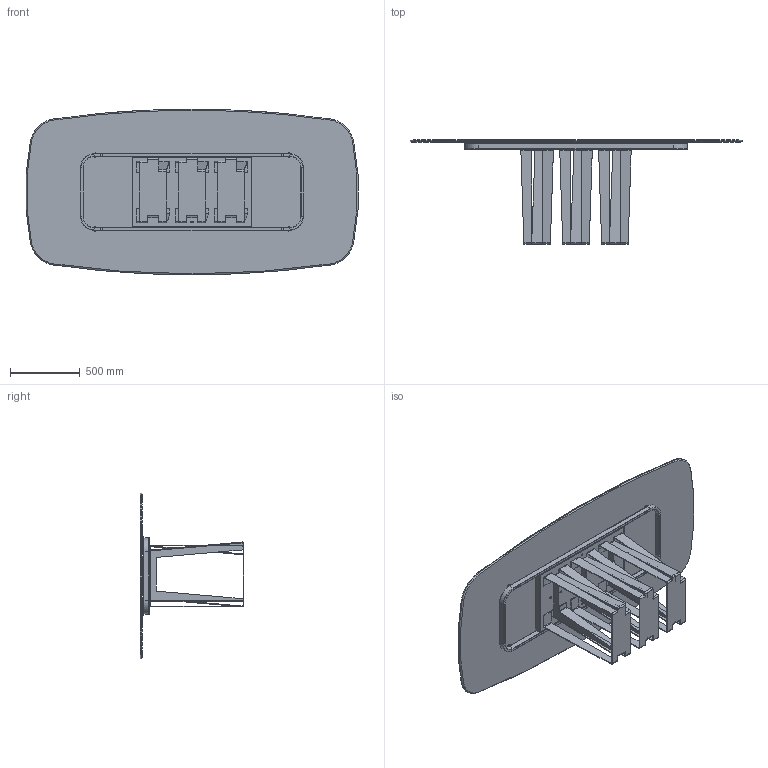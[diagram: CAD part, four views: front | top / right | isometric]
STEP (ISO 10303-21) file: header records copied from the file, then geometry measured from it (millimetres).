
FILE_DESCRIPTION (( 'STEP AP203' ), '1' );
FILE_NAME ('NA42C.STEP', '2024-08-07T14:43:11', ( '' ), ( '' ), 'SwSTEP 2.0', 'SolidWorks 2022', '' );
FILE_SCHEMA (( 'CONFIG_CONTROL_DESIGN' ));
Length unit declared in the file: millimetre
Products named in the file (8): M8xXXmm_M8x20mm; TTAV01_02-01-VASSOIO IRRIGIDIMENTO TELAIO UNIVERSALE; TTAV01_01-01-TELAIO UNIVERSALE X TAVOLI 180 240cm_Default<A macchina>; K4XCMXX-00-Piani Sagomati in ceramica_2390 x 1190; TTAV01-01-TELAIO UNIVERSALE X TAVOLI 180 240cm; 434070-00-PIEDINO TPV GOMMA NERO D. 30x8max18; NAB000000-00-NARCISO BASE SING. GREZZA; NA42C
Assembly tree (17 placements, depth 3):
  NA42C
    K4XCMXX-00-Piani Sagomati in ceramica_2390 x 1190
    434070-00-PIEDINO TPV GOMMA NERO D. 30x8max18  x4
    TTAV01-01-TELAIO UNIVERSALE X TAVOLI 180 240cm
      TTAV01_01-01-TELAIO UNIVERSALE X TAVOLI 180 240cm_Default<A macchina>
      TTAV01_02-01-VASSOIO IRRIGIDIMENTO TELAIO UNIVERSALE
    NAB000000-00-NARCISO BASE SING. GREZZA  x3
    M8xXXmm_M8x20mm  x6
Bounding box: 2382.15 x 746 x 1190 mm (x, y, z)
Volume: 53349798.1 mm3; surface area: 15471295.1 mm2
Topology: 31 solids, 31 shells, 1012 faces, 2476 edges, 1520 vertices
Faces by surface type: plane 539, cylinder 284, cone 81, torus 72, bspline 36
Entity records: 18027 total; most frequent: CARTESIAN_POINT 3257, DIRECTION 2933, ORIENTED_EDGE 2792, EDGE_CURVE 1396, AXIS2_PLACEMENT_3D 1040, VERTEX_POINT 888, VECTOR 853, LINE 853
